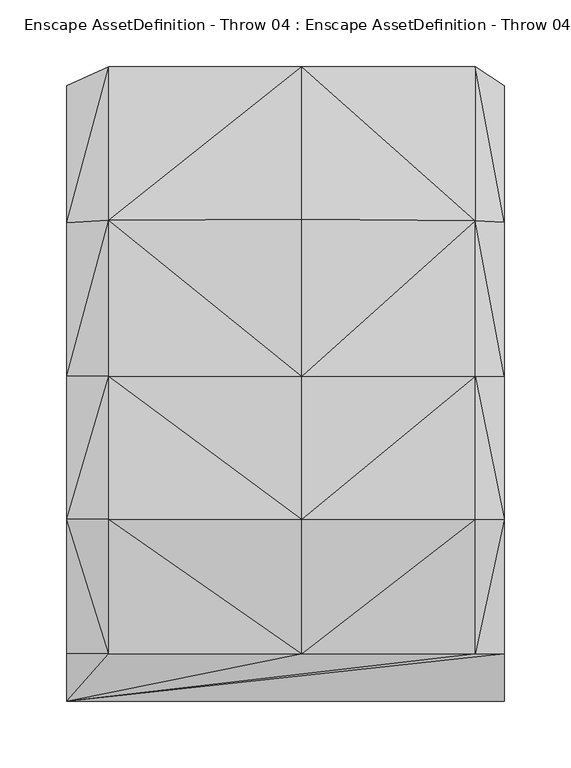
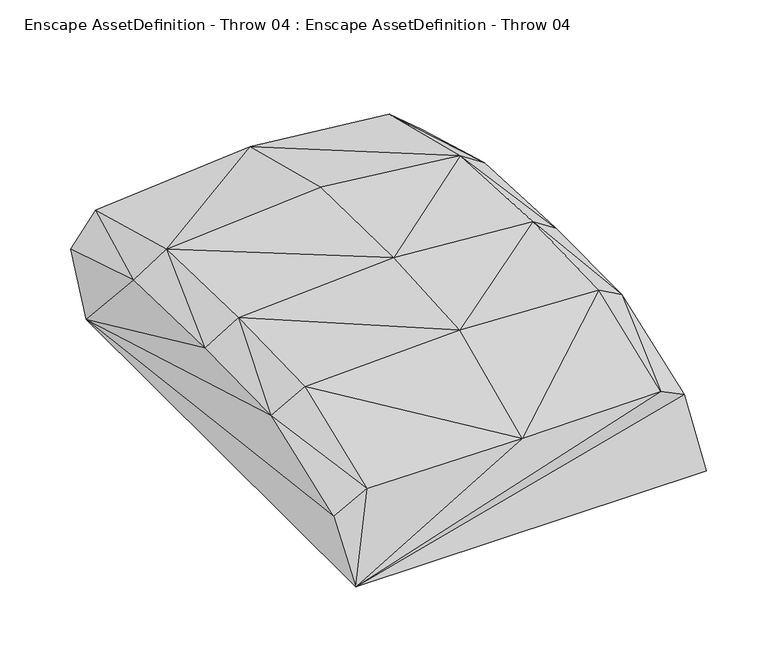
"""IFC4 building model written with IfcOpenShell, lengths in millimetres: geographic element geometry, Enscape AssetDefinition - Throw 04 : Enscape AssetDefinition - Throw 04."""

from ifc_helpers import new_model, si_unit, origin, place, context, project, spatial, faceted_brep, source, transform, mapped, element, save


def enscape_assetdefinition_throw_04_enscape_assetdefinition_2e475fd9(model_context):
    return source(origin(), model_context, "Body", "Brep", [
        faceted_brep([(163.4277105, 117.2574461, 87.1060118), (163.4277403, 219.5279896, 58.0903664), (141.733259, 233.5975468, 72.105892), (163.4277105, 194.271192, 0.0), (141.7332441, 118.4857413, 101.0676101), (12.3113561, 233.5976064, 85.32653), (163.4276807, 2.0542305, 92.1544284), (12.3113189, 119.6444035, 114.2373681), (12.3112807, 2.0542799, 115.9983352), (141.7332143, 2.0542378, 106.169939), (-132.1701854, 118.7895313, 104.5196652), (-132.1701705, 233.5976362, 73.2689798), (12.3112462, -104.7797799, 109.5262766), (-132.1702152, 2.0543272, 107.536763), (141.7331845, -104.7798246, 103.476651), (163.4276658, -104.7798321, 91.3712755), (141.7331398, -205.4227442, 64.3641502), (163.4276211, -205.422774, 54.1229397), (12.3112127, -205.4227144, 63.4153038), (-132.1702451, -104.7797352, 104.1153595), (-132.1702898, -205.4226547, 64.4910783), (-163.5930091, -240.8723533, 0.0), (163.4276062, -240.8725023, 0.0), (-163.5928899, 194.2713112, 0.0), (-163.5929942, -205.4226547, 48.3574942), (-163.5929495, -104.7797278, 86.5710154), (-163.5929197, 2.0543374, 88.5468721), (-163.5928899, 117.12531, 85.6028348), (-163.5928601, 219.5280939, 54.279089)], [[[0, 1, 2]], [[0, 3, 1]], [[2, 1, 3]], [[4, 2, 5]], [[0, 2, 4]], [[2, 3, 5]], [[6, 3, 0]], [[4, 6, 0]], [[4, 7, 8]], [[4, 9, 6]], [[4, 8, 9]], [[4, 5, 7]], [[7, 5, 10]], [[10, 5, 11]], [[5, 3, 11]], [[10, 8, 7]], [[9, 8, 12]], [[10, 13, 8]], [[13, 12, 8]], [[9, 14, 15]], [[9, 12, 14]], [[9, 15, 6]], [[15, 3, 6]], [[14, 16, 15]], [[17, 3, 15]], [[15, 16, 17]], [[14, 12, 18]], [[14, 18, 16]], [[13, 19, 12]], [[19, 18, 12]], [[19, 20, 18]], [[21, 18, 20]], [[21, 16, 18]], [[21, 17, 16]], [[17, 22, 3]], [[21, 22, 17]], [[23, 22, 21]], [[24, 23, 21]], [[21, 20, 24]], [[19, 25, 20]], [[20, 25, 24]], [[13, 25, 19]], [[13, 26, 25]], [[26, 23, 25]], [[25, 23, 24]], [[10, 26, 13]], [[10, 27, 26]], [[27, 23, 26]], [[10, 11, 27]], [[28, 23, 27]], [[27, 11, 28]], [[11, 3, 28]], [[28, 3, 23]], [[22, 23, 3]]]),
    ])


if __name__ == "__main__":
    model = new_model("IFC4")
    model_context = context("Model", 3, world=origin())
    ifc_project = project(units=[si_unit("LENGTHUNIT", "METRE", prefix="MILLI")], contexts=[model_context])
    site = spatial("IfcSite", under=ifc_project)
    building = spatial("IfcBuilding", under=site)
    placement = place(None, origin())
    enscape_assetdefinition_throw_04_enscape_assetdefinition_shape = enscape_assetdefinition_throw_04_enscape_assetdefinition_2e475fd9(model_context)
    element("IfcGeographicElement", 1, ObjectType="Enscape AssetDefinition - Throw 04 : Enscape AssetDefinition - Throw 04", at=placement, inside=building, context=model_context, shape_type="MappedRepresentation", body=[
        mapped(enscape_assetdefinition_throw_04_enscape_assetdefinition_shape, transform((0.0, 0.0, 0.0), x_axis=(1.0, 0.0, 0.0), y_axis=(0.0, 1.0, 0.0), z_axis=(0.0, 0.0, 1.0))),
    ])
    save(model, "model.ifc")
